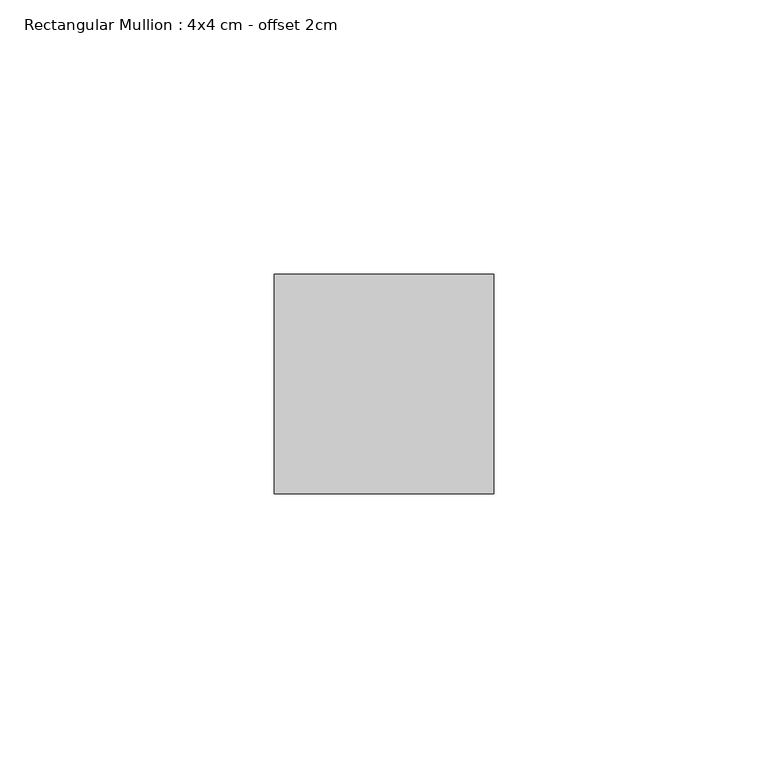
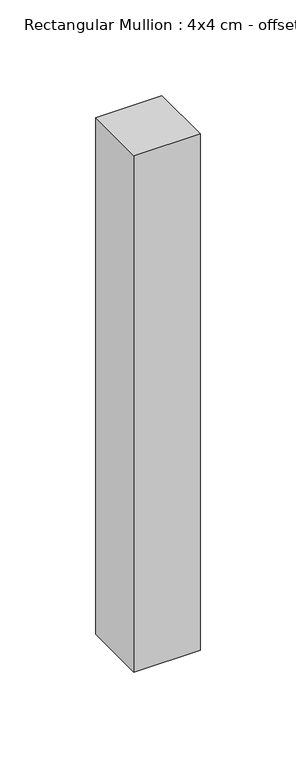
"""IFC4 building model written with IfcOpenShell, lengths in millimetres: member geometry, Rectangular Mullion : 4x4 cm - offset 2cm."""

from ifc_helpers import new_model, si_unit, frame, origin, place, context, project, spatial, polyline, outline, extrude, source, transform, mapped, element, save


def rectangular_mullion_4x4_cm_offset_2cm_8e4f37b2(model_context):
    return source(origin(), model_context, "Body", "SweptSolid", [
        extrude(outline(polyline([(40.0, 0.0), (40.0, -40.0), (0.0, -40.0), (0.0, 0.0), (40.0, 0.0)])), frame((0.0, 0.0, -330.0), z_axis=(0.0, 0.0, 1.0), x_axis=(1.0, 0.0, 0.0)), (0.0, 0.0, 1.0), 330.0),
    ])


if __name__ == "__main__":
    model = new_model("IFC4")
    model_context = context("Model", 3, world=origin())
    ifc_project = project(units=[si_unit("LENGTHUNIT", "METRE", prefix="MILLI")], contexts=[model_context])
    site = spatial("IfcSite", under=ifc_project)
    building = spatial("IfcBuilding", under=site)
    placement = place(None, origin())
    rectangular_mullion_4x4_cm_offset_2cm_shape = rectangular_mullion_4x4_cm_offset_2cm_8e4f37b2(model_context)
    element("IfcMember", 1, ObjectType="Rectangular Mullion : 4x4 cm - offset 2cm", at=placement, inside=building, context=model_context, shape_type="MappedRepresentation", body=[
        mapped(rectangular_mullion_4x4_cm_offset_2cm_shape, transform((0.0, 0.0, 0.0), x_axis=(1.0, 0.0, 0.0), y_axis=(0.0, 1.0, 0.0), z_axis=(0.0, 0.0, 1.0))),
    ])
    save(model, "model.ifc")
